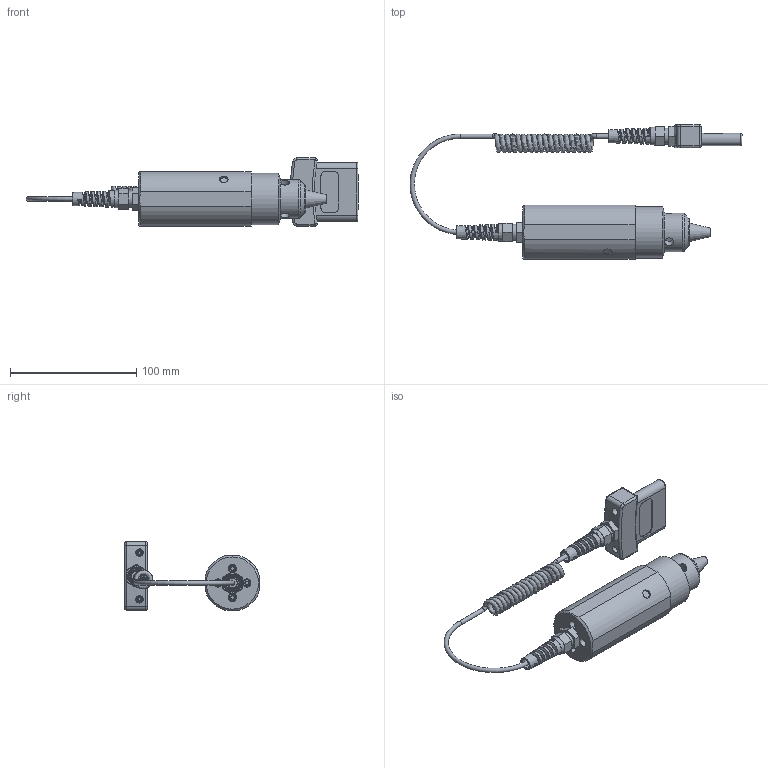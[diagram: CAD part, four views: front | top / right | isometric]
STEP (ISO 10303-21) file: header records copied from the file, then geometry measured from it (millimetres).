
FILE_DESCRIPTION((''),'2;1');
FILE_NAME('F:\CAD files\Itr\3D MARKETING MODELS\TORQUE SENSORS\MR50\MR50_12_50_100.stp','2017-06-01T11:14:48',('mlampen'),(''),'Autodesk Inventor 2010','Autodesk Inventor 2010','');
FILE_SCHEMA(('AUTOMOTIVE_DESIGN { 1 0 10303 214 1 1 1 1 }'));
Length unit declared in the file: inch
Products named in the file (1): Part2
Bounding box: 262.96 x 106.78 x 54.05 mm (x, y, z)
Volume: 225931.2 mm3; surface area: 49036.2 mm2
Topology: 4 solids, 4 shells, 536 faces, 1377 edges, 888 vertices
Faces by surface type: plane 187, bspline 152, cylinder 92, cone 86, torus 15, sphere 4
Full cylindrical faces by diameter (mm): 3.175 x2, 3.429 x3, 4.648 x2, 5.74 x4, 5.842 x2, 6.604 x4, 6.756 x1, 6.947 x3, 7.62 x12, 11.176 x2, 12.7 x2, 30.48 x1, 40.64 x1
Entity records: 28213 total; most frequent: CARTESIAN_POINT 17486, ORIENTED_EDGE 2494, DIRECTION 1662, EDGE_CURVE 1247, VERTEX_POINT 852, AXIS2_PLACEMENT_3D 658, EDGE_LOOP 637, FACE_OUTER_BOUND 516
